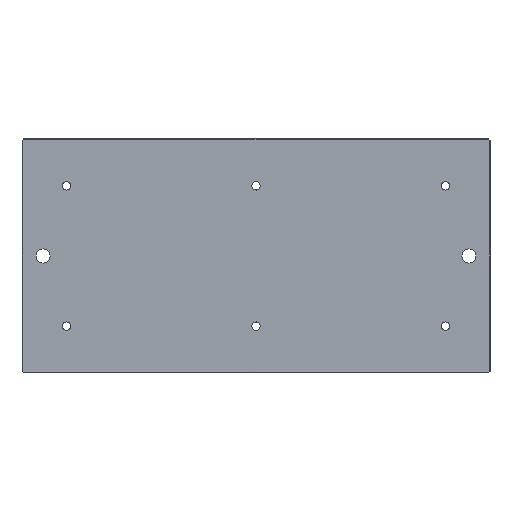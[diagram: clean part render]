
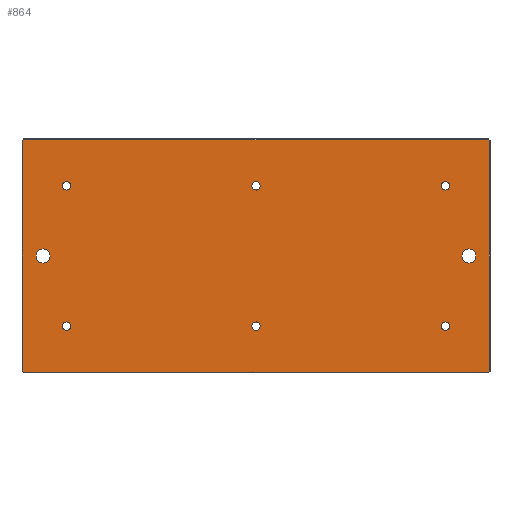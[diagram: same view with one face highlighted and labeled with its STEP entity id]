
A CAD part, front view. The second image highlights one B-rep face of the part: STEP entity #864.
In plain terms, the highlighted planar face has unit normal (0, -1, 0).
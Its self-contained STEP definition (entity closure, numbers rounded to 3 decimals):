
#1=CARTESIAN_POINT('',(-405.,-25.,-150.));
#2=DIRECTION('',(0.,1.,0.));
#3=DIRECTION('',(1.,0.,0.));
#4=AXIS2_PLACEMENT_3D('',#1,#2,#3);
#6=CARTESIAN_POINT('',(-405.,-25.,-150.));
#7=DIRECTION('',(0.,1.,0.));
#8=DIRECTION('',(-1.,0.,0.));
#9=AXIS2_PLACEMENT_3D('',#6,#7,#8);
#11=CARTESIAN_POINT('',(0.,-25.,-150.));
#12=DIRECTION('',(0.,1.,0.));
#13=DIRECTION('',(1.,0.,0.));
#14=AXIS2_PLACEMENT_3D('',#11,#12,#13);
#16=CARTESIAN_POINT('',(0.,-25.,-150.));
#17=DIRECTION('',(0.,1.,0.));
#18=DIRECTION('',(-1.,0.,0.));
#19=AXIS2_PLACEMENT_3D('',#16,#17,#18);
#21=CARTESIAN_POINT('',(405.,-25.,-150.));
#22=DIRECTION('',(0.,1.,0.));
#23=DIRECTION('',(1.,0.,0.));
#24=AXIS2_PLACEMENT_3D('',#21,#22,#23);
#26=CARTESIAN_POINT('',(405.,-25.,-150.));
#27=DIRECTION('',(0.,1.,0.));
#28=DIRECTION('',(-1.,0.,0.));
#29=AXIS2_PLACEMENT_3D('',#26,#27,#28);
#31=CARTESIAN_POINT('',(-405.,-25.,150.));
#32=DIRECTION('',(0.,-1.,0.));
#33=DIRECTION('',(1.,0.,0.));
#34=AXIS2_PLACEMENT_3D('',#31,#32,#33);
#36=CARTESIAN_POINT('',(-405.,-25.,150.));
#37=DIRECTION('',(0.,-1.,0.));
#38=DIRECTION('',(-1.,0.,0.));
#39=AXIS2_PLACEMENT_3D('',#36,#37,#38);
#41=CARTESIAN_POINT('',(0.,-25.,150.));
#42=DIRECTION('',(0.,-1.,0.));
#43=DIRECTION('',(1.,0.,0.));
#44=AXIS2_PLACEMENT_3D('',#41,#42,#43);
#46=CARTESIAN_POINT('',(0.,-25.,150.));
#47=DIRECTION('',(0.,-1.,0.));
#48=DIRECTION('',(-1.,0.,0.));
#49=AXIS2_PLACEMENT_3D('',#46,#47,#48);
#51=CARTESIAN_POINT('',(405.,-25.,150.));
#52=DIRECTION('',(0.,-1.,0.));
#53=DIRECTION('',(1.,0.,0.));
#54=AXIS2_PLACEMENT_3D('',#51,#52,#53);
#56=CARTESIAN_POINT('',(405.,-25.,150.));
#57=DIRECTION('',(0.,-1.,0.));
#58=DIRECTION('',(-1.,0.,0.));
#59=AXIS2_PLACEMENT_3D('',#56,#57,#58);
#61=CARTESIAN_POINT('',(-455.,-25.,0.));
#62=DIRECTION('',(0.,-1.,0.));
#63=DIRECTION('',(1.,0.,0.));
#64=AXIS2_PLACEMENT_3D('',#61,#62,#63);
#66=CARTESIAN_POINT('',(-455.,-25.,0.));
#67=DIRECTION('',(0.,-1.,0.));
#68=DIRECTION('',(-1.,0.,0.));
#69=AXIS2_PLACEMENT_3D('',#66,#67,#68);
#71=CARTESIAN_POINT('',(455.,-25.,0.));
#72=DIRECTION('',(0.,1.,0.));
#73=DIRECTION('',(-1.,0.,0.));
#74=AXIS2_PLACEMENT_3D('',#71,#72,#73);
#76=CARTESIAN_POINT('',(455.,-25.,0.));
#77=DIRECTION('',(0.,1.,0.));
#78=DIRECTION('',(1.,0.,0.));
#79=AXIS2_PLACEMENT_3D('',#76,#77,#78);
#81=DIRECTION('',(-0.707,0.,-0.707));
#82=VECTOR('',#81,2.586);
#83=CARTESIAN_POINT('',(-496.172,-25.,248.));
#84=LINE('',#83,#82);
#85=DIRECTION('',(-1.,0.,0.));
#86=VECTOR('',#85,992.343);
#87=CARTESIAN_POINT('',(496.172,-25.,248.));
#88=LINE('',#87,#86);
#89=DIRECTION('',(-0.707,0.,0.707));
#90=VECTOR('',#89,2.586);
#91=CARTESIAN_POINT('',(498.,-25.,246.172));
#92=LINE('',#91,#90);
#93=DIRECTION('',(0.,0.,1.));
#94=VECTOR('',#93,492.343);
#95=CARTESIAN_POINT('',(498.,-25.,-246.172));
#96=LINE('',#95,#94);
#97=DIRECTION('',(0.707,0.,0.707));
#98=VECTOR('',#97,2.586);
#99=CARTESIAN_POINT('',(496.172,-25.,-248.));
#100=LINE('',#99,#98);
#101=DIRECTION('',(1.,0.,0.));
#102=VECTOR('',#101,992.343);
#103=CARTESIAN_POINT('',(-496.172,-25.,-248.));
#104=LINE('',#103,#102);
#105=DIRECTION('',(0.707,0.,-0.707));
#106=VECTOR('',#105,2.586);
#107=CARTESIAN_POINT('',(-498.,-25.,-246.172));
#108=LINE('',#107,#106);
#109=DIRECTION('',(0.,0.,-1.));
#110=VECTOR('',#109,492.343);
#111=CARTESIAN_POINT('',(-498.,-25.,246.172));
#112=LINE('',#111,#110);
#625=CARTESIAN_POINT('',(-396.,-25.,-150.));
#626=CARTESIAN_POINT('',(-414.,-25.,-150.));
#627=VERTEX_POINT('',#625);
#628=VERTEX_POINT('',#626);
#641=CARTESIAN_POINT('',(9.,-25.,-150.));
#642=CARTESIAN_POINT('',(-9.,-25.,-150.));
#643=VERTEX_POINT('',#641);
#644=VERTEX_POINT('',#642);
#657=CARTESIAN_POINT('',(414.,-25.,-150.));
#658=CARTESIAN_POINT('',(396.,-25.,-150.));
#659=VERTEX_POINT('',#657);
#660=VERTEX_POINT('',#658);
#673=CARTESIAN_POINT('',(-396.,-25.,150.));
#674=VERTEX_POINT('',#673);
#677=CARTESIAN_POINT('',(-414.,-25.,150.));
#678=VERTEX_POINT('',#677);
#689=CARTESIAN_POINT('',(9.,-25.,150.));
#690=VERTEX_POINT('',#689);
#693=CARTESIAN_POINT('',(-9.,-25.,150.));
#694=VERTEX_POINT('',#693);
#705=CARTESIAN_POINT('',(414.,-25.,150.));
#706=VERTEX_POINT('',#705);
#709=CARTESIAN_POINT('',(396.,-25.,150.));
#710=VERTEX_POINT('',#709);
#713=CARTESIAN_POINT('',(-440.,-25.,0.));
#714=CARTESIAN_POINT('',(-470.,-25.,0.));
#715=VERTEX_POINT('',#713);
#716=VERTEX_POINT('',#714);
#722=CARTESIAN_POINT('',(440.,-25.,0.));
#724=VERTEX_POINT('',#722);
#726=CARTESIAN_POINT('',(470.,-25.,0.));
#728=VERTEX_POINT('',#726);
#765=CARTESIAN_POINT('',(-496.172,-25.,248.));
#766=CARTESIAN_POINT('',(-498.,-25.,246.172));
#767=VERTEX_POINT('',#765);
#768=VERTEX_POINT('',#766);
#771=CARTESIAN_POINT('',(-498.,-25.,-246.172));
#772=VERTEX_POINT('',#771);
#773=CARTESIAN_POINT('',(-496.172,-25.,-248.));
#774=VERTEX_POINT('',#773);
#779=CARTESIAN_POINT('',(496.172,-25.,-248.));
#780=VERTEX_POINT('',#779);
#781=CARTESIAN_POINT('',(498.,-25.,-246.172));
#782=VERTEX_POINT('',#781);
#787=CARTESIAN_POINT('',(498.,-25.,246.172));
#788=VERTEX_POINT('',#787);
#789=CARTESIAN_POINT('',(496.172,-25.,248.));
#790=VERTEX_POINT('',#789);
#793=CARTESIAN_POINT('',(0.,-25.,0.));
#794=DIRECTION('',(0.,1.,0.));
#795=DIRECTION('',(1.,0.,0.));
#796=AXIS2_PLACEMENT_3D('',#793,#794,#795);
#797=PLANE('',#796);
#799=ORIENTED_EDGE('',*,*,#798,.F.);
#801=ORIENTED_EDGE('',*,*,#800,.F.);
#803=ORIENTED_EDGE('',*,*,#802,.F.);
#805=ORIENTED_EDGE('',*,*,#804,.F.);
#807=ORIENTED_EDGE('',*,*,#806,.F.);
#809=ORIENTED_EDGE('',*,*,#808,.F.);
#811=ORIENTED_EDGE('',*,*,#810,.F.);
#813=ORIENTED_EDGE('',*,*,#812,.F.);
#814=EDGE_LOOP('',(#799,#801,#803,#805,#807,#809,#811,#813));
#815=FACE_OUTER_BOUND('',#814,.F.);
#817=ORIENTED_EDGE('',*,*,#816,.F.);
#819=ORIENTED_EDGE('',*,*,#818,.F.);
#820=EDGE_LOOP('',(#817,#819));
#821=FACE_BOUND('',#820,.F.);
#823=ORIENTED_EDGE('',*,*,#822,.F.);
#825=ORIENTED_EDGE('',*,*,#824,.F.);
#826=EDGE_LOOP('',(#823,#825));
#827=FACE_BOUND('',#826,.F.);
#829=ORIENTED_EDGE('',*,*,#828,.T.);
#831=ORIENTED_EDGE('',*,*,#830,.T.);
#832=EDGE_LOOP('',(#829,#831));
#833=FACE_BOUND('',#832,.F.);
#835=ORIENTED_EDGE('',*,*,#834,.T.);
#837=ORIENTED_EDGE('',*,*,#836,.T.);
#838=EDGE_LOOP('',(#835,#837));
#839=FACE_BOUND('',#838,.F.);
#841=ORIENTED_EDGE('',*,*,#840,.T.);
#843=ORIENTED_EDGE('',*,*,#842,.T.);
#844=EDGE_LOOP('',(#841,#843));
#845=FACE_BOUND('',#844,.F.);
#847=ORIENTED_EDGE('',*,*,#846,.T.);
#849=ORIENTED_EDGE('',*,*,#848,.T.);
#850=EDGE_LOOP('',(#847,#849));
#851=FACE_BOUND('',#850,.F.);
#853=ORIENTED_EDGE('',*,*,#852,.F.);
#855=ORIENTED_EDGE('',*,*,#854,.F.);
#856=EDGE_LOOP('',(#853,#855));
#857=FACE_BOUND('',#856,.F.);
#859=ORIENTED_EDGE('',*,*,#858,.F.);
#861=ORIENTED_EDGE('',*,*,#860,.F.);
#862=EDGE_LOOP('',(#859,#861));
#863=FACE_BOUND('',#862,.F.);
#864=ADVANCED_FACE('',(#815,#821,#827,#833,#839,#845,#851,#857,#863),#797,.F.);
#5=CIRCLE('',#4,9.);
#10=CIRCLE('',#9,9.);
#15=CIRCLE('',#14,9.);
#20=CIRCLE('',#19,9.);
#25=CIRCLE('',#24,9.);
#30=CIRCLE('',#29,9.);
#35=CIRCLE('',#34,9.);
#40=CIRCLE('',#39,9.);
#45=CIRCLE('',#44,9.);
#50=CIRCLE('',#49,9.);
#55=CIRCLE('',#54,9.);
#60=CIRCLE('',#59,9.);
#65=CIRCLE('',#64,15.);
#70=CIRCLE('',#69,15.);
#75=CIRCLE('',#74,15.);
#80=CIRCLE('',#79,15.);
#798=EDGE_CURVE('',#767,#768,#84,.T.);
#800=EDGE_CURVE('',#790,#767,#88,.T.);
#802=EDGE_CURVE('',#788,#790,#92,.T.);
#804=EDGE_CURVE('',#782,#788,#96,.T.);
#806=EDGE_CURVE('',#780,#782,#100,.T.);
#808=EDGE_CURVE('',#774,#780,#104,.T.);
#810=EDGE_CURVE('',#772,#774,#108,.T.);
#812=EDGE_CURVE('',#768,#772,#112,.T.);
#816=EDGE_CURVE('',#643,#644,#15,.T.);
#818=EDGE_CURVE('',#644,#643,#20,.T.);
#822=EDGE_CURVE('',#659,#660,#25,.T.);
#824=EDGE_CURVE('',#660,#659,#30,.T.);
#828=EDGE_CURVE('',#674,#678,#35,.T.);
#830=EDGE_CURVE('',#678,#674,#40,.T.);
#834=EDGE_CURVE('',#690,#694,#45,.T.);
#836=EDGE_CURVE('',#694,#690,#50,.T.);
#840=EDGE_CURVE('',#706,#710,#55,.T.);
#842=EDGE_CURVE('',#710,#706,#60,.T.);
#846=EDGE_CURVE('',#715,#716,#65,.T.);
#848=EDGE_CURVE('',#716,#715,#70,.T.);
#852=EDGE_CURVE('',#724,#728,#75,.T.);
#854=EDGE_CURVE('',#728,#724,#80,.T.);
#858=EDGE_CURVE('',#627,#628,#5,.T.);
#860=EDGE_CURVE('',#628,#627,#10,.T.);
